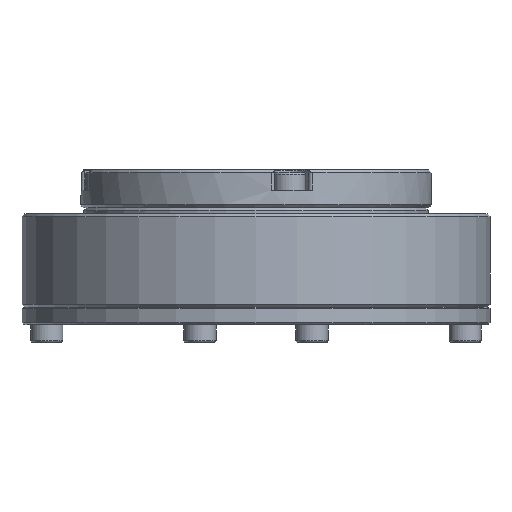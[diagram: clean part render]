
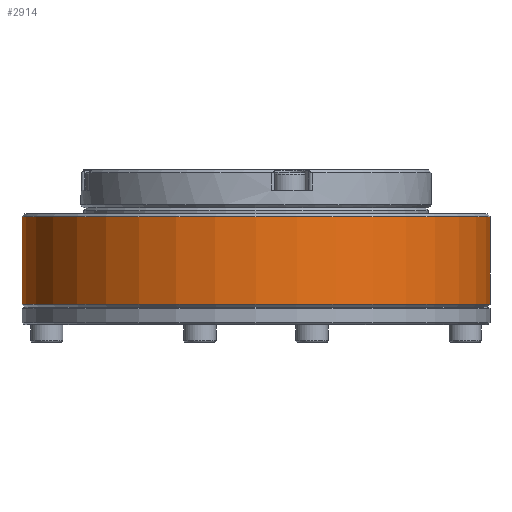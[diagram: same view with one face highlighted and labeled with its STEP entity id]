
A CAD part, front view. The second image highlights one B-rep face of the part: STEP entity #2914.
In plain terms, the highlighted cylindrical face has radius 40 mm (diameter 80 mm), a full revolution.
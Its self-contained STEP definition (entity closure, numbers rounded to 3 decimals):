
#2447=CYLINDRICAL_SURFACE('',#10528,40.);
#2914=ADVANCED_FACE('',(#3813,#3814),#2447,.T.);
#3813=FACE_BOUND('',#4756,.T.);
#3814=FACE_BOUND('',#4757,.T.);
#4756=EDGE_LOOP('',(#5852));
#4757=EDGE_LOOP('',(#5853));
#5852=ORIENTED_EDGE('',*,*,#8674,.F.);
#5853=ORIENTED_EDGE('',*,*,#8673,.T.);
#7797=VERTEX_POINT('',#14948);
#7798=VERTEX_POINT('',#14951);
#8673=EDGE_CURVE('',#7797,#7797,#9705,.T.);
#8674=EDGE_CURVE('',#7798,#7798,#9706,.T.);
#9705=CIRCLE('',#10525,40.);
#9706=CIRCLE('',#10527,40.);
#10525=AXIS2_PLACEMENT_3D('',#14947,#12125,#12126);
#10527=AXIS2_PLACEMENT_3D('',#14950,#12129,#12130);
#10528=AXIS2_PLACEMENT_3D('',#14952,#12131,#12132);
#12125=DIRECTION('',(0.,0.,-1.));
#12126=DIRECTION('',(-1.,0.,0.));
#12129=DIRECTION('',(0.,0.,-1.));
#12130=DIRECTION('',(-1.,0.,0.));
#12131=DIRECTION('',(0.,0.,-1.));
#12132=DIRECTION('',(1.,0.,0.));
#14947=CARTESIAN_POINT('',(0.,0.,15.5));
#14948=CARTESIAN_POINT('',(-40.,0.,15.5));
#14950=CARTESIAN_POINT('',(0.,0.,0.5));
#14951=CARTESIAN_POINT('',(-40.,0.,0.5));
#14952=CARTESIAN_POINT('',(0.,0.,0.));
